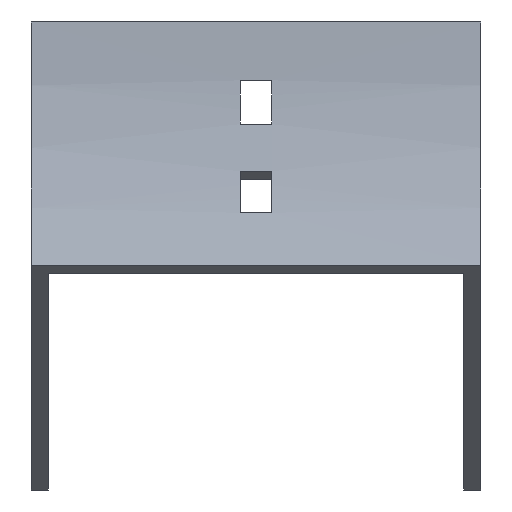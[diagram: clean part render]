
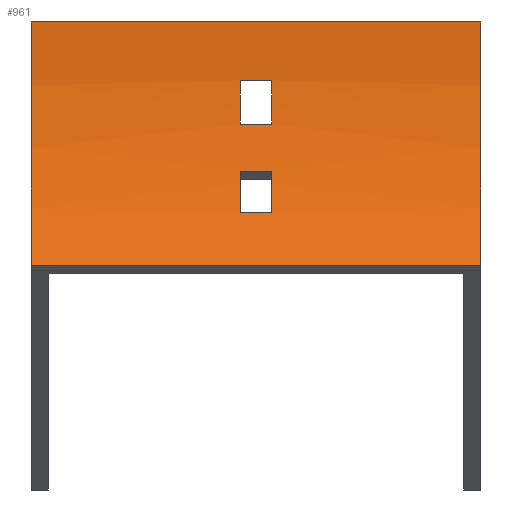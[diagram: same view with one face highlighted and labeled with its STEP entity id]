
A CAD part, front view. The second image highlights one B-rep face of the part: STEP entity #961.
In plain terms, the highlighted cylindrical face has radius 100 mm (diameter 200 mm), a partial arc.
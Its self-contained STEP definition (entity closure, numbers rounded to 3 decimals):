
#20 = VECTOR ( 'NONE', #97, 1000. ) ;
#30 = DIRECTION ( 'NONE',  ( 1., 0., 0. ) ) ;
#42 = ORIENTED_EDGE ( 'NONE', *, *, #177, .T. ) ;
#50 = CARTESIAN_POINT ( 'NONE',  ( -46.25, -100., 0. ) ) ;
#52 = EDGE_CURVE ( 'NONE', #1513, #1028, #649, .T. ) ;
#63 = DIRECTION ( 'NONE',  ( 0., 0., 1. ) ) ;
#65 = VERTEX_POINT ( 'NONE', #286 ) ;
#76 = EDGE_CURVE ( 'NONE', #991, #1649, #842, .T. ) ;
#85 = DIRECTION ( 'NONE',  ( -1., 0., 0. ) ) ;
#97 = DIRECTION ( 'NONE',  ( 1., 0., 0. ) ) ;
#99 = CARTESIAN_POINT ( 'NONE',  ( 3.25, -2.23, -21. ) ) ;
#108 = FACE_OUTER_BOUND ( 'NONE', #812, .T. ) ;
#142 = EDGE_LOOP ( 'NONE', ( #558, #747, #1086, #876 ) ) ;
#152 = CARTESIAN_POINT ( 'NONE',  ( 46.25, -2.23, -21. ) ) ;
#156 = CARTESIAN_POINT ( 'NONE',  ( 3.25, -8.023, -39.246 ) ) ;
#175 = CARTESIAN_POINT ( 'NONE',  ( -3.25, -100., 0. ) ) ;
#177 = EDGE_CURVE ( 'NONE', #924, #1513, #622, .T. ) ;
#190 = DIRECTION ( 'NONE',  ( -1., 0., 0. ) ) ;
#205 = ORIENTED_EDGE ( 'NONE', *, *, #76, .T. ) ;
#222 = DIRECTION ( 'NONE',  ( 0., 0., -1. ) ) ;
#286 = CARTESIAN_POINT ( 'NONE',  ( 3.25, -0.723, -12. ) ) ;
#291 = DIRECTION ( 'NONE',  ( -1., 0., 0. ) ) ;
#348 = AXIS2_PLACEMENT_3D ( 'NONE', #1052, #1541, #1432 ) ;
#379 = CYLINDRICAL_SURFACE ( 'NONE', #348, 100. ) ;
#400 = CIRCLE ( 'NONE', #1065, 100. ) ;
#456 = CIRCLE ( 'NONE', #484, 100. ) ;
#461 = CIRCLE ( 'NONE', #574, 100. ) ;
#466 = DIRECTION ( 'NONE',  ( -1., 0., 0. ) ) ;
#481 = DIRECTION ( 'NONE',  ( 0., 0., 1. ) ) ;
#484 = AXIS2_PLACEMENT_3D ( 'NONE', #175, #30, #1605 ) ;
#489 = LINE ( 'NONE', #1398, #20 ) ;
#499 = FACE_BOUND ( 'NONE', #142, .T. ) ;
#521 = ORIENTED_EDGE ( 'NONE', *, *, #931, .T. ) ;
#541 = CIRCLE ( 'NONE', #1094, 100. ) ;
#558 = ORIENTED_EDGE ( 'NONE', *, *, #626, .F. ) ;
#574 = AXIS2_PLACEMENT_3D ( 'NONE', #1529, #878, #1023 ) ;
#601 = CARTESIAN_POINT ( 'NONE',  ( -3.25, -100., 0. ) ) ;
#603 = DIRECTION ( 'NONE',  ( -1., 0., 0. ) ) ;
#606 = CIRCLE ( 'NONE', #1563, 100. ) ;
#614 = DIRECTION ( 'NONE',  ( 1., 0., 0. ) ) ;
#622 = LINE ( 'NONE', #1648, #1612 ) ;
#626 = EDGE_CURVE ( 'NONE', #1453, #1487, #606, .T. ) ;
#630 = CARTESIAN_POINT ( 'NONE',  ( 46.25, -0.723, -12. ) ) ;
#649 = CIRCLE ( 'NONE', #899, 100. ) ;
#681 = CARTESIAN_POINT ( 'NONE',  ( -3.25, -8.023, -39.246 ) ) ;
#700 = CARTESIAN_POINT ( 'NONE',  ( 3.25, -4.829, -30.699 ) ) ;
#714 = DIRECTION ( 'NONE',  ( -1., 0., 0. ) ) ;
#747 = ORIENTED_EDGE ( 'NONE', *, *, #884, .F. ) ;
#790 = VECTOR ( 'NONE', #714, 1000. ) ;
#812 = EDGE_LOOP ( 'NONE', ( #1527, #1057, #1002, #42 ) ) ;
#813 = EDGE_CURVE ( 'NONE', #971, #1028, #1327, .T. ) ;
#814 = VECTOR ( 'NONE', #1070, 1000. ) ;
#825 = VERTEX_POINT ( 'NONE', #156 ) ;
#827 = EDGE_CURVE ( 'NONE', #1649, #1397, #456, .T. ) ;
#836 = CARTESIAN_POINT ( 'NONE',  ( 46.25, 0., 0. ) ) ;
#842 = LINE ( 'NONE', #152, #790 ) ;
#876 = ORIENTED_EDGE ( 'NONE', *, *, #1439, .F. ) ;
#878 = DIRECTION ( 'NONE',  ( -1., 0., 0. ) ) ;
#884 = EDGE_CURVE ( 'NONE', #1276, #1453, #1615, .T. ) ;
#893 = CARTESIAN_POINT ( 'NONE',  ( -3.25, -0.723, -12. ) ) ;
#899 = AXIS2_PLACEMENT_3D ( 'NONE', #50, #190, #63 ) ;
#924 = VERTEX_POINT ( 'NONE', #836 ) ;
#931 = EDGE_CURVE ( 'NONE', #1397, #65, #974, .T. ) ;
#961 = ADVANCED_FACE ( 'NONE', ( #108, #1578, #499 ), #379, .F. ) ;
#966 = CARTESIAN_POINT ( 'NONE',  ( 46.25, -13.397, -50. ) ) ;
#971 = VERTEX_POINT ( 'NONE', #1281 ) ;
#974 = LINE ( 'NONE', #630, #1553 ) ;
#978 = ORIENTED_EDGE ( 'NONE', *, *, #827, .T. ) ;
#991 = VERTEX_POINT ( 'NONE', #99 ) ;
#1002 = ORIENTED_EDGE ( 'NONE', *, *, #1280, .F. ) ;
#1023 = DIRECTION ( 'NONE',  ( 0., 0., -1. ) ) ;
#1028 = VERTEX_POINT ( 'NONE', #1442 ) ;
#1052 = CARTESIAN_POINT ( 'NONE',  ( 46.25, -100., 0. ) ) ;
#1057 = ORIENTED_EDGE ( 'NONE', *, *, #813, .F. ) ;
#1065 = AXIS2_PLACEMENT_3D ( 'NONE', #1278, #614, #481 ) ;
#1070 = DIRECTION ( 'NONE',  ( -1., 0., 0. ) ) ;
#1086 = ORIENTED_EDGE ( 'NONE', *, *, #1411, .F. ) ;
#1094 = AXIS2_PLACEMENT_3D ( 'NONE', #1617, #466, #1490 ) ;
#1118 = VECTOR ( 'NONE', #291, 1000. ) ;
#1146 = CARTESIAN_POINT ( 'NONE',  ( -3.25, -4.829, -30.699 ) ) ;
#1276 = VERTEX_POINT ( 'NONE', #700 ) ;
#1278 = CARTESIAN_POINT ( 'NONE',  ( 3.25, -100., 0. ) ) ;
#1280 = EDGE_CURVE ( 'NONE', #924, #971, #541, .T. ) ;
#1281 = CARTESIAN_POINT ( 'NONE',  ( 46.25, -13.397, -50. ) ) ;
#1305 = ORIENTED_EDGE ( 'NONE', *, *, #1362, .T. ) ;
#1327 = LINE ( 'NONE', #966, #814 ) ;
#1362 = EDGE_CURVE ( 'NONE', #65, #991, #461, .T. ) ;
#1397 = VERTEX_POINT ( 'NONE', #893 ) ;
#1398 = CARTESIAN_POINT ( 'NONE',  ( 46.25, -8.023, -39.246 ) ) ;
#1405 = DIRECTION ( 'NONE',  ( 1., 0., 0. ) ) ;
#1411 = EDGE_CURVE ( 'NONE', #825, #1276, #400, .T. ) ;
#1432 = DIRECTION ( 'NONE',  ( 0., 0., 1. ) ) ;
#1439 = EDGE_CURVE ( 'NONE', #1487, #825, #489, .T. ) ;
#1442 = CARTESIAN_POINT ( 'NONE',  ( -46.25, -13.397, -50. ) ) ;
#1453 = VERTEX_POINT ( 'NONE', #1146 ) ;
#1463 = CARTESIAN_POINT ( 'NONE',  ( 46.25, -4.829, -30.699 ) ) ;
#1487 = VERTEX_POINT ( 'NONE', #681 ) ;
#1490 = DIRECTION ( 'NONE',  ( 0., 0., 1. ) ) ;
#1513 = VERTEX_POINT ( 'NONE', #1597 ) ;
#1514 = CARTESIAN_POINT ( 'NONE',  ( -3.25, -2.23, -21. ) ) ;
#1527 = ORIENTED_EDGE ( 'NONE', *, *, #52, .T. ) ;
#1529 = CARTESIAN_POINT ( 'NONE',  ( 3.25, -100., 0. ) ) ;
#1541 = DIRECTION ( 'NONE',  ( -1., 0., 0. ) ) ;
#1553 = VECTOR ( 'NONE', #1405, 1000. ) ;
#1563 = AXIS2_PLACEMENT_3D ( 'NONE', #601, #85, #222 ) ;
#1578 = FACE_BOUND ( 'NONE', #1603, .T. ) ;
#1597 = CARTESIAN_POINT ( 'NONE',  ( -46.25, 0., 0. ) ) ;
#1603 = EDGE_LOOP ( 'NONE', ( #205, #978, #521, #1305 ) ) ;
#1605 = DIRECTION ( 'NONE',  ( 0., 0., 1. ) ) ;
#1612 = VECTOR ( 'NONE', #603, 1000. ) ;
#1615 = LINE ( 'NONE', #1463, #1118 ) ;
#1617 = CARTESIAN_POINT ( 'NONE',  ( 46.25, -100., 0. ) ) ;
#1648 = CARTESIAN_POINT ( 'NONE',  ( 46.25, 0., 0. ) ) ;
#1649 = VERTEX_POINT ( 'NONE', #1514 ) ;
